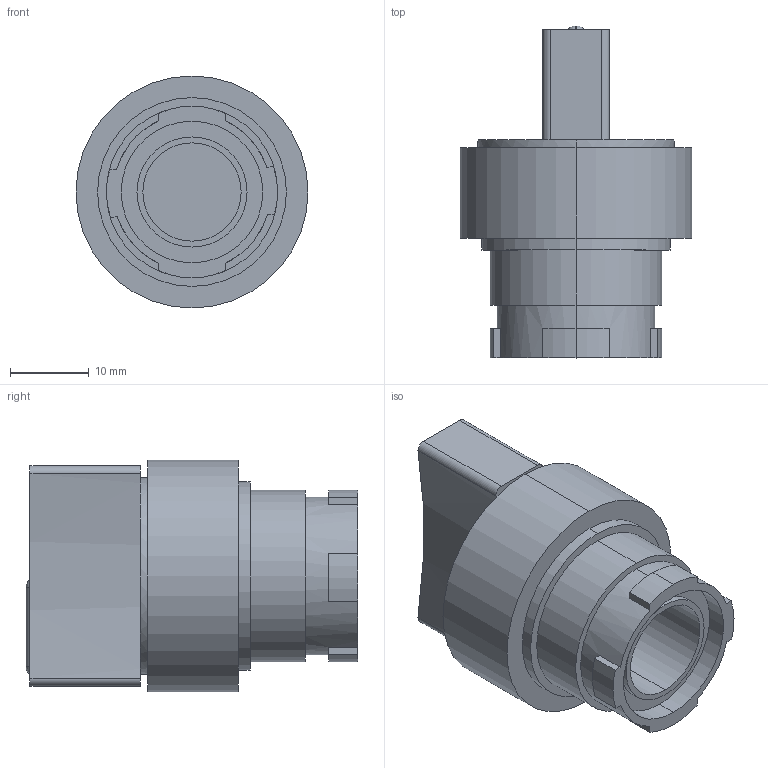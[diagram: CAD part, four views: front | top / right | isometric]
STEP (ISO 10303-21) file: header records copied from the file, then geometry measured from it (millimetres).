
FILE_DESCRIPTION (( 'STEP AP214' ), '1' );
FILE_NAME ('3D 斁麧錪 MTB2-BD2.STEP', '2017-03-03T06:57:46', ( 'adm' ), ( 'MICROSOFT' ), 'SwSTEP 2.0', 'SolidWorks 2011', '' );
FILE_SCHEMA (( 'AUTOMOTIVE_DESIGN' ));
Length unit declared in the file: millimetre
Products named in the file (1): 3D 斁麧錪 MTB2-BD2
Bounding box: 29.5 x 42.2 x 29.5 mm (x, y, z)
Volume: 14704.5 mm3; surface area: 5323.7 mm2
Topology: 1 solids, 1 shells, 63 faces, 155 edges, 102 vertices
Faces by surface type: cylinder 31, plane 28, bspline 4
Entity records: 2197 total; most frequent: CARTESIAN_POINT 393, DIRECTION 353, ORIENTED_EDGE 310, EDGE_CURVE 155, AXIS2_PLACEMENT_3D 142, VERTEX_POINT 102, CIRCLE 82, EDGE_LOOP 71
